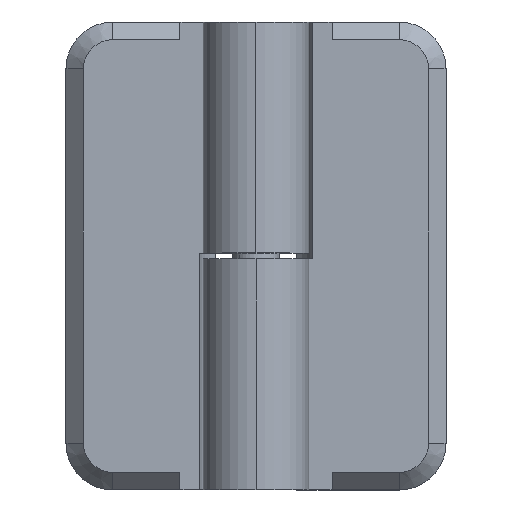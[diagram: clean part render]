
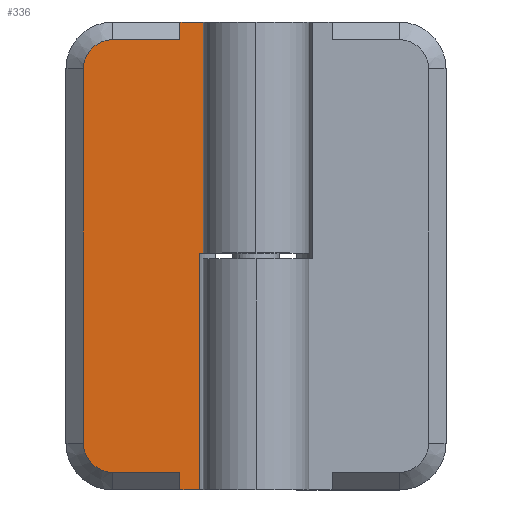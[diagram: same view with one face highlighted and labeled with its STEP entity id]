
A CAD part, top view. The second image highlights one B-rep face of the part: STEP entity #336.
In plain terms, the highlighted planar face has unit normal (0, 0, 1).
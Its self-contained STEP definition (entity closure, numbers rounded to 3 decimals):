
#77 = VERTEX_POINT ( 'NONE', #586 ) ;
#157 = ORIENTED_EDGE ( 'NONE', *, *, #260, .T. ) ;
#214 = ORIENTED_EDGE ( 'NONE', *, *, #215, .T. ) ;
#215 = EDGE_CURVE ( 'NONE', #352, #335, #881, .T. ) ;
#216 = ORIENTED_EDGE ( 'NONE', *, *, #217, .F. ) ;
#217 = EDGE_CURVE ( 'NONE', #218, #335, #877, .T. ) ;
#218 = VERTEX_POINT ( 'NONE', #873 ) ;
#223 = ORIENTED_EDGE ( 'NONE', *, *, #224, .F. ) ;
#224 = EDGE_CURVE ( 'NONE', #225, #218, #977, .T. ) ;
#225 = VERTEX_POINT ( 'NONE', #973 ) ;
#226 = ORIENTED_EDGE ( 'NONE', *, *, #227, .T. ) ;
#227 = EDGE_CURVE ( 'NONE', #225, #77, #972, .T. ) ;
#228 = ORIENTED_EDGE ( 'NONE', *, *, #229, .F. ) ;
#229 = EDGE_CURVE ( 'NONE', #352, #339, #968, .T. ) ;
#254 = EDGE_CURVE ( 'NONE', #297, #290, #1110, .T. ) ;
#258 = ORIENTED_EDGE ( 'NONE', *, *, #293, .T. ) ;
#259 = VERTEX_POINT ( 'NONE', #1097 ) ;
#260 = EDGE_CURVE ( 'NONE', #77, #267, #1210, .T. ) ;
#266 = ORIENTED_EDGE ( 'NONE', *, *, #254, .T. ) ;
#267 = VERTEX_POINT ( 'NONE', #1047 ) ;
#285 = EDGE_CURVE ( 'NONE', #259, #297, #1030, .T. ) ;
#289 = EDGE_CURVE ( 'NONE', #290, #343, #1031, .T. ) ;
#290 = VERTEX_POINT ( 'NONE', #1050 ) ;
#293 = EDGE_CURVE ( 'NONE', #267, #259, #1154, .T. ) ;
#294 = ORIENTED_EDGE ( 'NONE', *, *, #285, .T. ) ;
#296 = ORIENTED_EDGE ( 'NONE', *, *, #289, .T. ) ;
#297 = VERTEX_POINT ( 'NONE', #1094 ) ;
#300 = EDGE_CURVE ( 'NONE', #343, #348, #1084, .T. ) ;
#335 = VERTEX_POINT ( 'NONE', #1035 ) ;
#336 = ADVANCED_FACE ( 'NONE', ( #1034 ), #1134, .T. ) ;
#337 = EDGE_LOOP ( 'NONE', ( #338, #350, #228, #214, #216, #223, #226, #157, #258, #294, #266, #296 ) ) ;
#338 = ORIENTED_EDGE ( 'NONE', *, *, #300, .T. ) ;
#339 = VERTEX_POINT ( 'NONE', #1129 ) ;
#343 = VERTEX_POINT ( 'NONE', #1117 ) ;
#348 = VERTEX_POINT ( 'NONE', #1380 ) ;
#350 = ORIENTED_EDGE ( 'NONE', *, *, #351, .T. ) ;
#351 = EDGE_CURVE ( 'NONE', #348, #339, #1303, .T. ) ;
#352 = VERTEX_POINT ( 'NONE', #1397 ) ;
#586 = CARTESIAN_POINT ( 'NONE',  ( 18.728, -20.308, 8.2 ) ) ;
#873 = CARTESIAN_POINT ( 'NONE',  ( 7.228, -23.308, 8.2 ) ) ;
#874 = DIRECTION ( 'NONE',  ( -1., 0., 0. ) ) ;
#875 = VECTOR ( 'NONE', #874, 1000. ) ;
#876 = CARTESIAN_POINT ( 'NONE',  ( 7.228, -23.308, 8.2 ) ) ;
#877 = LINE ( 'NONE', #876, #875 ) ;
#878 = DIRECTION ( 'NONE',  ( 0., -1., 0. ) ) ;
#879 = VECTOR ( 'NONE', #878, 1000. ) ;
#880 = CARTESIAN_POINT ( 'NONE',  ( 3.228, -23.308, 8.2 ) ) ;
#881 = LINE ( 'NONE', #880, #879 ) ;
#966 = VECTOR ( 'NONE', #993, 1000. ) ;
#967 = CARTESIAN_POINT ( 'NONE',  ( 3.96, 16.192, 8.2 ) ) ;
#968 = LINE ( 'NONE', #967, #966 ) ;
#969 = DIRECTION ( 'NONE',  ( 1., 0., 0. ) ) ;
#970 = VECTOR ( 'NONE', #969, 1000. ) ;
#971 = CARTESIAN_POINT ( 'NONE',  ( 18.728, -20.308, 8.2 ) ) ;
#972 = LINE ( 'NONE', #971, #970 ) ;
#973 = CARTESIAN_POINT ( 'NONE',  ( 7.228, -20.308, 8.2 ) ) ;
#974 = DIRECTION ( 'NONE',  ( 0., -1., 0. ) ) ;
#975 = VECTOR ( 'NONE', #974, 1000. ) ;
#976 = CARTESIAN_POINT ( 'NONE',  ( 7.228, -23.308, 8.2 ) ) ;
#977 = LINE ( 'NONE', #976, #975 ) ;
#993 = DIRECTION ( 'NONE',  ( 1., 0., 0. ) ) ;
#1028 = CARTESIAN_POINT ( 'NONE',  ( 18.728, 48.692, 8.2 ) ) ;
#1029 = AXIS2_PLACEMENT_3D ( 'NONE', #1028, #1055, #1054 ) ;
#1030 = CIRCLE ( 'NONE', #1029, 5. ) ;
#1031 = LINE ( 'NONE', #1053, #1052 ) ;
#1034 = FACE_OUTER_BOUND ( 'NONE', #337, .T. ) ;
#1035 = CARTESIAN_POINT ( 'NONE',  ( 3.228, -23.308, 8.2 ) ) ;
#1047 = CARTESIAN_POINT ( 'NONE',  ( 23.728, -15.308, 8.2 ) ) ;
#1050 = CARTESIAN_POINT ( 'NONE',  ( 7.228, 53.692, 8.2 ) ) ;
#1051 = DIRECTION ( 'NONE',  ( 0., 1., 0. ) ) ;
#1052 = VECTOR ( 'NONE', #1051, 1000. ) ;
#1053 = CARTESIAN_POINT ( 'NONE',  ( 7.228, 56.692, 8.2 ) ) ;
#1054 = DIRECTION ( 'NONE',  ( 1., 0., 0. ) ) ;
#1055 = DIRECTION ( 'NONE',  ( 0., 0., 1. ) ) ;
#1083 = CARTESIAN_POINT ( 'NONE',  ( 7.228, 56.692, 8.2 ) ) ;
#1084 = LINE ( 'NONE', #1083, #1201 ) ;
#1094 = CARTESIAN_POINT ( 'NONE',  ( 18.728, 53.692, 8.2 ) ) ;
#1097 = CARTESIAN_POINT ( 'NONE',  ( 23.728, 48.692, 8.2 ) ) ;
#1099 = CARTESIAN_POINT ( 'NONE',  ( 1.228, 53.692, 8.2 ) ) ;
#1110 = LINE ( 'NONE', #1099, #1111 ) ;
#1111 = VECTOR ( 'NONE', #1148, 1000. ) ;
#1117 = CARTESIAN_POINT ( 'NONE',  ( 7.228, 56.692, 8.2 ) ) ;
#1129 = CARTESIAN_POINT ( 'NONE',  ( 3.96, 16.192, 8.2 ) ) ;
#1130 = DIRECTION ( 'NONE',  ( 1., 0., 0. ) ) ;
#1131 = DIRECTION ( 'NONE',  ( 0., 0., 1. ) ) ;
#1132 = AXIS2_PLACEMENT_3D ( 'NONE', #1133, #1131, #1130 ) ;
#1133 = CARTESIAN_POINT ( 'NONE',  ( 26.728, 56.692, 8.2 ) ) ;
#1134 = PLANE ( 'NONE',  #1132 ) ;
#1148 = DIRECTION ( 'NONE',  ( -1., 0., 0. ) ) ;
#1151 = DIRECTION ( 'NONE',  ( 0., 1., 0. ) ) ;
#1152 = VECTOR ( 'NONE', #1151, 1000. ) ;
#1153 = CARTESIAN_POINT ( 'NONE',  ( 23.728, 48.692, 8.2 ) ) ;
#1154 = LINE ( 'NONE', #1153, #1152 ) ;
#1176 = DIRECTION ( 'NONE',  ( 1., 0., 0. ) ) ;
#1177 = DIRECTION ( 'NONE',  ( 0., 0., 1. ) ) ;
#1178 = CARTESIAN_POINT ( 'NONE',  ( 18.728, -15.308, 8.2 ) ) ;
#1200 = DIRECTION ( 'NONE',  ( -1., 0., 0. ) ) ;
#1201 = VECTOR ( 'NONE', #1200, 1000. ) ;
#1209 = AXIS2_PLACEMENT_3D ( 'NONE', #1178, #1177, #1176 ) ;
#1210 = CIRCLE ( 'NONE', #1209, 5. ) ;
#1247 = VECTOR ( 'NONE', #1398, 1000. ) ;
#1302 = CARTESIAN_POINT ( 'NONE',  ( 3.96, 56.692, 8.2 ) ) ;
#1303 = LINE ( 'NONE', #1302, #1247 ) ;
#1380 = CARTESIAN_POINT ( 'NONE',  ( 3.96, 56.692, 8.2 ) ) ;
#1397 = CARTESIAN_POINT ( 'NONE',  ( 3.228, 16.192, 8.2 ) ) ;
#1398 = DIRECTION ( 'NONE',  ( 0., -1., 0. ) ) ;
